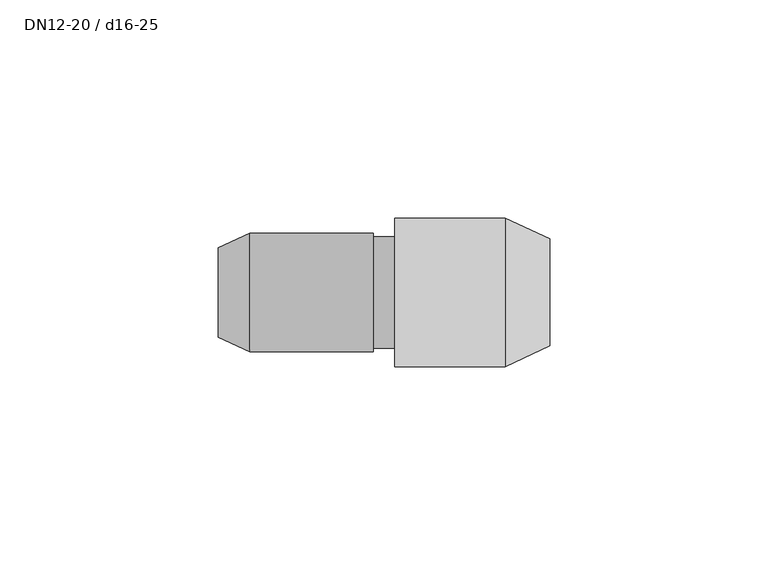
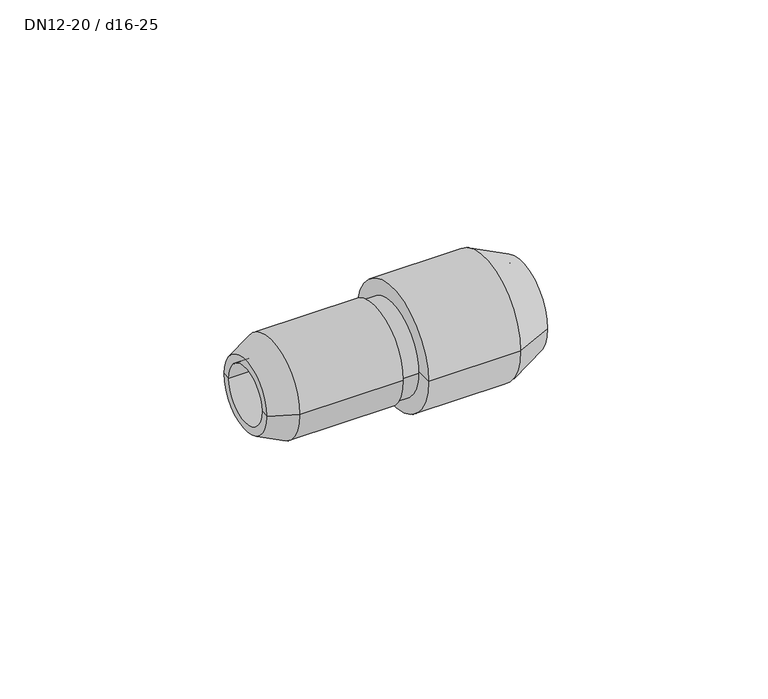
"""IFC4 building model written with IfcOpenShell, lengths in millimetres: pipe fitting geometry, NLRS_50_PIF_UN_PushFit verloop_geb : DN12-20 / d16-25."""

from ifc_helpers import new_model, si_unit, point, frame, origin, origin_2d, place, context, project, spatial, polyline, circle_curve, trimmed, segment, composite_curve, outline, extrude, source, transform, mapped, element, save
from ifc_brep_helpers import plane_surface, cylinder_surface, revolved_surface, advanced_brep


def dn12_20_d16_25_c7b3e6c1(model_context):
    return source(origin(), model_context, "Body", "SolidModel", [
        advanced_brep(
        [(2.5, 17.0, 0.0), (2.5, -17.0, 0.0), (2.5, 0.0, 0.0), (27.8135921, 17.0, 0.0), (27.8135921, -17.0, 0.0), (38.0, 12.25, 0.0), (38.0, -12.25, 0.0), (12.5, 10.0, 0.0), (12.5, -10.0, 0.0), (38.0, -10.0, 0.0), (38.0, 10.0, 0.0), (12.5, 0.0, 0.0)],
        [
            (0, 1, circle_curve(frame((2.5, 0.0, 0.0), z_axis=(-1.0, 0.0, 0.0), x_axis=(0.0, -1.0000000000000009, 0.0)), 17.0)),
            (1, 2),
            (2, 0),
            (1, 0, circle_curve(frame((2.5, 0.0, 0.0), z_axis=(-1.0, 0.0, 0.0), x_axis=(0.0, -1.0000000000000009, 0.0)), 17.0)),
            (3, 4, circle_curve(frame((27.8135921, 0.0, 0.0), z_axis=(-1.0, 0.0, 0.0), x_axis=(0.0, -1.0000000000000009, 0.0)), 17.0)),
            (4, 1),
            (0, 3),
            (4, 3, circle_curve(frame((27.8135921, 0.0, 0.0), z_axis=(-1.0, 0.0, 0.0), x_axis=(0.0, -1.0000000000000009, 0.0)), 17.0)),
            (5, 6, circle_curve(frame((38.0, 0.0, 0.0), z_axis=(-1.0, 0.0, 0.0), x_axis=(0.0, -1.0000000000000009, 0.0)), 12.25)),
            (6, 4),
            (3, 5),
            (6, 5, circle_curve(frame((38.0, 0.0, 0.0), z_axis=(-1.0, 0.0, 0.0), x_axis=(0.0, -1.0000000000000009, 0.0)), 12.25)),
            (7, 8, circle_curve(frame((12.5, 0.0, 0.0), z_axis=(-1.0, 0.0, 0.0), x_axis=(0.0, -1.0000000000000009, 0.0)), 10.0)),
            (8, 9),
            (9, 10, circle_curve(frame((38.0, 0.0, 0.0), z_axis=(1.0, 0.0, 0.0), x_axis=(0.0, -1.0000000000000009, 0.0)), 10.0)),
            (10, 7),
            (8, 7, circle_curve(frame((12.5, 0.0, 0.0), z_axis=(-1.0, 0.0, 0.0), x_axis=(0.0, -1.0000000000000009, 0.0)), 10.0)),
            (10, 9, circle_curve(frame((38.0, 0.0, 0.0), z_axis=(1.0, 0.0, 0.0), x_axis=(0.0, -1.0000000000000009, 0.0)), 10.0)),
            (11, 8),
            (7, 11),
            (9, 6),
            (5, 10),
        ],
        [
            plane_surface(frame((2.5, 0.0, 0.0), z_axis=(-1.0, 0.0, 0.0), x_axis=(0.0, -1.0, 0.0))),
            cylinder_surface(frame((48.0, 0.0, 0.0), z_axis=(1.0000000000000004, 0.0, 0.0), x_axis=(0.0, -1.0000000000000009, 0.0)), 17.0),
            revolved_surface(polyline([(27.8135921, -17.0, 0.0), (38.0, -12.25, 0.0)]), (48.0, 0.0, 0.0), (1.0000000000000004, 0.0, 0.0)),
            revolved_surface(polyline([(37.99999999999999, -10.000000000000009, 0.0), (12.499999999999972, -10.000000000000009, 0.0)]), (48.0, 0.0, 0.0), (1.0000000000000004, 0.0, 0.0)),
            plane_surface(frame((12.5, 0.0, 0.0), z_axis=(1.0, 0.0, 0.0), x_axis=(0.0, -1.0, 0.0))),
            plane_surface(frame((38.0, 0.0, 0.0), z_axis=(1.0, 0.0, 0.0), x_axis=(0.0, -1.0, 0.0))),
        ],
        [
            (0, [[1, 2, 3]]),
            (0, [[4, -3, -2]]),
            (1, [[5, 6, -1, 7]]),
            (1, [[8, -7, -4, -6]]),
            (2, [[9, 10, -5, 11]]),
            (2, [[12, -11, -8, -10]]),
            (3, [[13, 14, 15, 16]]),
            (3, [[17, -16, 18, -14]]),
            (4, [[19, -13, 20]]),
            (4, [[-20, -17, -19]]),
            (5, [[-15, 21, -9, 22]]),
            (5, [[-18, -22, -12, -21]]),
        ],
    ),
        advanced_brep(
        [(-2.5, -13.6, 0.0), (-2.5, 13.6, 0.0), (-2.5, 0.0, 0.0), (-30.8159018, -13.6, 0.0), (-30.8159018, 13.6, 0.0), (-38.0, -10.25, 0.0), (-38.0, 10.25, 0.0), (-12.5, -8.0, 0.0), (-12.5, 8.0, 0.0), (-38.0, 8.0, 0.0), (-38.0, -8.0, 0.0), (-12.5, 0.0, 0.0)],
        [
            (0, 1, circle_curve(frame((-2.5, 0.0, 0.0), z_axis=(1.0, 0.0, 0.0), x_axis=(0.0, 1.0, 0.0)), 13.6)),
            (1, 2),
            (2, 0),
            (1, 0, circle_curve(frame((-2.5, 0.0, 0.0), z_axis=(1.0, 0.0, 0.0), x_axis=(0.0, 1.0, 0.0)), 13.6)),
            (3, 4, circle_curve(frame((-30.8159018, 0.0, 0.0), z_axis=(1.0, 0.0, 0.0), x_axis=(0.0, 1.0, 0.0)), 13.6)),
            (4, 1),
            (0, 3),
            (4, 3, circle_curve(frame((-30.8159018, 0.0, 0.0), z_axis=(1.0, 0.0, 0.0), x_axis=(0.0, 1.0, 0.0)), 13.6)),
            (5, 6, circle_curve(frame((-38.0, 0.0, 0.0), z_axis=(1.0, 0.0, 0.0), x_axis=(0.0, 1.0, 0.0)), 10.25)),
            (6, 4),
            (3, 5),
            (6, 5, circle_curve(frame((-38.0, 0.0, 0.0), z_axis=(1.0, 0.0, 0.0), x_axis=(0.0, 1.0, 0.0)), 10.25)),
            (7, 8, circle_curve(frame((-12.5, 0.0, 0.0), z_axis=(1.0, 0.0, 0.0), x_axis=(0.0, 1.0, 0.0)), 8.0)),
            (8, 9),
            (9, 10, circle_curve(frame((-38.0, 0.0, 0.0), z_axis=(-1.0, 0.0, 0.0), x_axis=(0.0, 1.0, 0.0)), 8.0)),
            (10, 7),
            (8, 7, circle_curve(frame((-12.5, 0.0, 0.0), z_axis=(1.0, 0.0, 0.0), x_axis=(0.0, 1.0, 0.0)), 8.0)),
            (10, 9, circle_curve(frame((-38.0, 0.0, 0.0), z_axis=(-1.0, 0.0, 0.0), x_axis=(0.0, 1.0, 0.0)), 8.0)),
            (11, 8),
            (7, 11),
            (9, 6),
            (5, 10),
        ],
        [
            plane_surface(frame((-2.5, 0.0, 0.0), z_axis=(1.0, 0.0, 0.0), x_axis=(0.0, 1.0, 0.0))),
            cylinder_surface(frame((-48.0, 0.0, 0.0), z_axis=(-1.0, 0.0, 0.0), x_axis=(0.0, 1.0, 0.0)), 13.6),
            revolved_surface(polyline([(-30.8159018, 13.6, 0.0), (-38.0, 10.25, 0.0)]), (-48.0, 0.0, 0.0), (-1.0, 0.0, 0.0)),
            revolved_surface(polyline([(-38.0, 8.0, 0.0), (-12.5, 8.0, 0.0)]), (-48.0, 0.0, 0.0), (-1.0, 0.0, 0.0)),
            plane_surface(frame((-12.5, 0.0, 0.0), z_axis=(-1.0, 0.0, 0.0), x_axis=(0.0, 1.0, 0.0))),
            plane_surface(frame((-38.0, 0.0, 0.0), z_axis=(-1.0, 0.0, 0.0), x_axis=(0.0, 1.0, 0.0))),
        ],
        [
            (0, [[1, 2, 3]]),
            (0, [[4, -3, -2]]),
            (1, [[5, 6, -1, 7]]),
            (1, [[8, -7, -4, -6]]),
            (2, [[9, 10, -5, 11]]),
            (2, [[12, -11, -8, -10]]),
            (3, [[13, 14, 15, 16]]),
            (3, [[17, -16, 18, -14]]),
            (4, [[19, -13, 20]]),
            (4, [[-20, -17, -19]]),
            (5, [[-15, 21, -9, 22]]),
            (5, [[-18, -22, -12, -21]]),
        ],
    ),
        extrude(outline(composite_curve([segment(trimmed(circle_curve(origin_2d(), 12.8), [point((-12.8, 0.0))], [point((12.8, 0.0))], False, "CARTESIAN"), True, "CONTINUOUS"), segment(trimmed(circle_curve(origin_2d(), 12.8), [point((12.8, 0.0))], [point((-12.8, 0.0))], False, "CARTESIAN"), True, "CONTINUOUS")], self_intersect=False)), frame((-2.5, 0.0, 0.0), z_axis=(1.0, 0.0, 0.0), x_axis=(0.0, 1.0, 0.0)), (0.0, 0.0, 1.0), 5.0),
    ])


if __name__ == "__main__":
    model = new_model("IFC4")
    model_context = context("Model", 3, world=origin())
    ifc_project = project(units=[si_unit("LENGTHUNIT", "METRE", prefix="MILLI")], contexts=[model_context])
    site = spatial("IfcSite", under=ifc_project)
    building = spatial("IfcBuilding", under=site)
    placement = place(None, origin())
    dn12_20_d16_25_shape = dn12_20_d16_25_c7b3e6c1(model_context)
    element("IfcPipeFitting", 1, ObjectType="NLRS_50_PIF_UN_PushFit verloop_geb : DN12-20 / d16-25", at=placement, inside=building, context=model_context, shape_type="MappedRepresentation", body=[
        mapped(dn12_20_d16_25_shape, transform((0.0, 0.0, 0.0), x_axis=(1.0, 0.0, 0.0), y_axis=(0.0, 1.0, 0.0), z_axis=(0.0, 0.0, 1.0))),
    ])
    save(model, "model.ifc")
